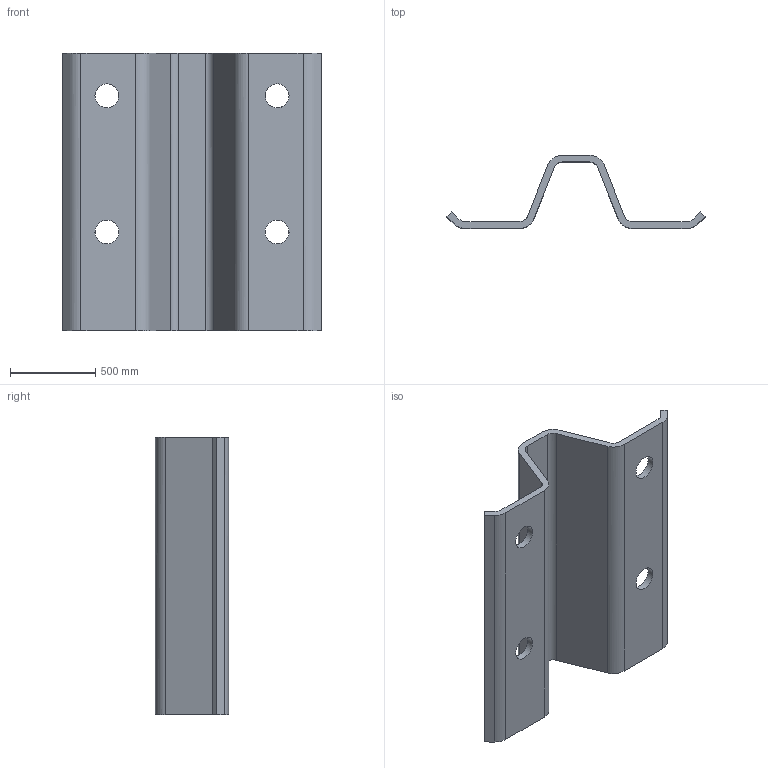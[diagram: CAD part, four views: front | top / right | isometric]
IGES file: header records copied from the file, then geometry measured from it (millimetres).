
Global section: file name: ZC185; native system: Autodesk RealDWG; preprocessor: Autodesk Translation Framework DWG producer (atf_dwg_producer); organization: unknown; date: 20241104.112313; units: centimetre
Bounding box: 1517.2 x 430 x 1630 mm (x, y, z)
Volume: 129125772.2 mm3; surface area: 6818575.1 mm2
Topology: 1 solids, 1 shells, 34 faces, 104 edges, 72 vertices
Faces by surface type: bspline 34
